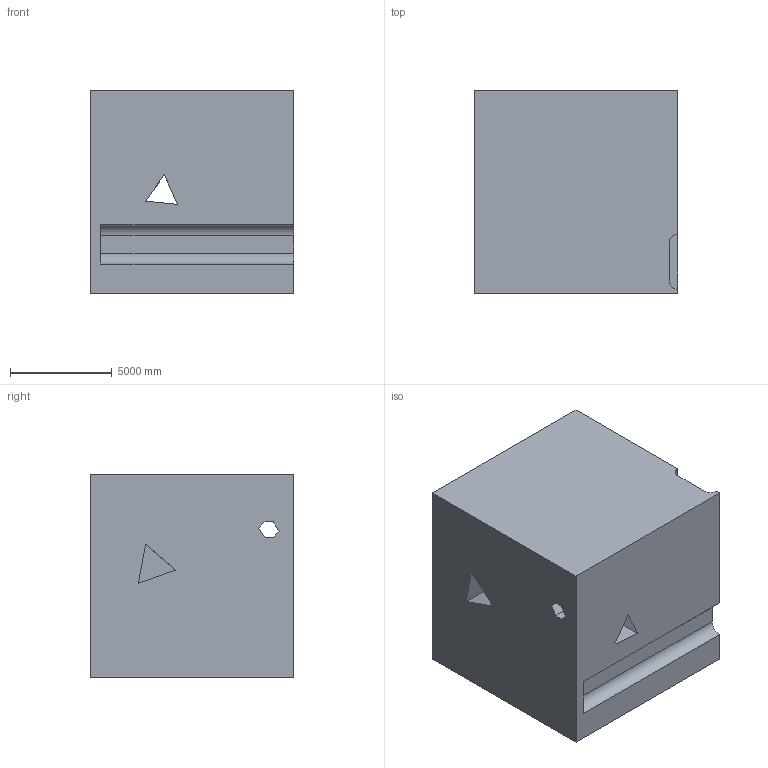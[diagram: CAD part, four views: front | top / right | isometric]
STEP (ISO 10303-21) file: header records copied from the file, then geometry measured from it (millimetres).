
FILE_DESCRIPTION (( 'STEP AP203' ), '1' );
FILE_NAME ('197.STEP', '2022-09-06T13:41:37', ( 'user' ), ( '' ), 'SwSTEP 2.0', 'SolidWorks 2021', '' );
FILE_SCHEMA (( 'CONFIG_CONTROL_DESIGN' ));
Length unit declared in the file: centimetre
Products named in the file (1): 197
Bounding box: 10000 x 10000 x 10000 mm (x, y, z)
Volume: 927837871690.7 mm3; surface area: 796692677.9 mm2
Topology: 1 solids, 1 shells, 53 faces, 156 edges, 104 vertices
Faces by surface type: plane 45, cylinder 8
Entity records: 1843 total; most frequent: CARTESIAN_POINT 326, ORIENTED_EDGE 312, DIRECTION 276, EDGE_CURVE 156, LINE 136, VECTOR 136, VERTEX_POINT 104, AXIS2_PLACEMENT_3D 70
